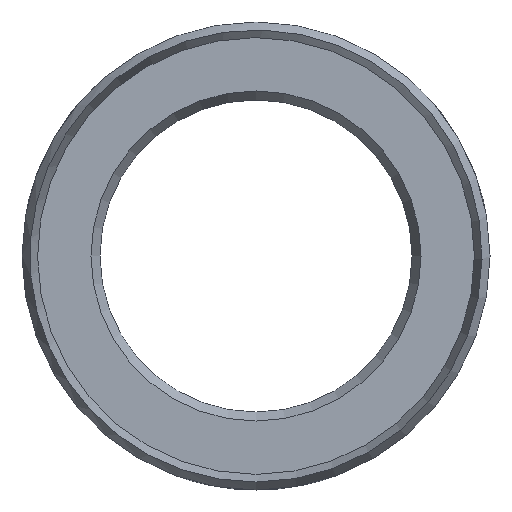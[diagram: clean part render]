
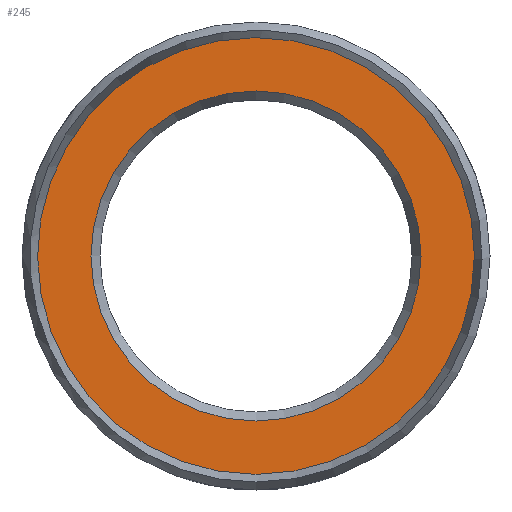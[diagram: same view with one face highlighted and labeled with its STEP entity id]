
A CAD part, left-side view. The second image highlights one B-rep face of the part: STEP entity #245.
In plain terms, the highlighted planar face has unit normal (-1, 0, 0).
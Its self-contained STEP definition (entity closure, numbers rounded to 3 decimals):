
#104=PLANE('',#959);
#245=ADVANCED_FACE('',(#301,#302),#104,.T.);
#301=FACE_BOUND('',#352,.T.);
#302=FACE_BOUND('',#353,.T.);
#352=EDGE_LOOP('',(#555));
#353=EDGE_LOOP('',(#556));
#555=ORIENTED_EDGE('',*,*,#796,.T.);
#556=ORIENTED_EDGE('',*,*,#795,.F.);
#683=VERTEX_POINT('',#1571);
#684=VERTEX_POINT('',#1574);
#795=EDGE_CURVE('',#683,#683,#859,.T.);
#796=EDGE_CURVE('',#684,#684,#860,.T.);
#859=CIRCLE('',#956,14.);
#860=CIRCLE('',#958,10.577);
#956=AXIS2_PLACEMENT_3D('',#1570,#1161,#1162);
#958=AXIS2_PLACEMENT_3D('',#1573,#1165,#1166);
#959=AXIS2_PLACEMENT_3D('',#1575,#1167,#1168);
#1161=DIRECTION('',(1.,0.,0.));
#1162=DIRECTION('',(0.,0.,-1.));
#1165=DIRECTION('',(1.,0.,0.));
#1166=DIRECTION('',(0.,0.,1.));
#1167=DIRECTION('',(-1.,0.,0.));
#1168=DIRECTION('',(0.,0.,1.));
#1570=CARTESIAN_POINT('',(0.,0.,0.));
#1571=CARTESIAN_POINT('',(0.,0.,-14.));
#1573=CARTESIAN_POINT('',(0.,0.,0.));
#1574=CARTESIAN_POINT('',(0.,0.,10.577));
#1575=CARTESIAN_POINT('',(0.,14.,0.));
